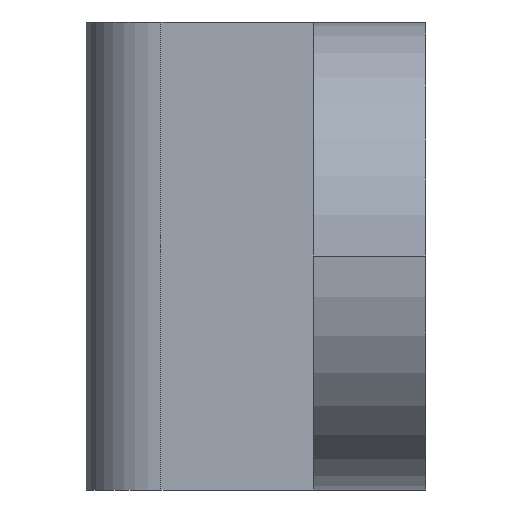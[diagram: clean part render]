
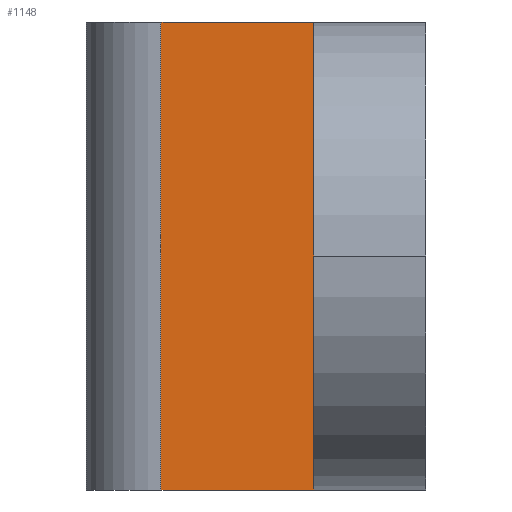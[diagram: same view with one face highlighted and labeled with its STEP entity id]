
A CAD part, left-side view. The second image highlights one B-rep face of the part: STEP entity #1148.
In plain terms, the highlighted planar face has unit normal (-1, 0, 0).
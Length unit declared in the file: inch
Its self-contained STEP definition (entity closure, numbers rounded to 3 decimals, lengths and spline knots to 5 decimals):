
#38 = FACE_OUTER_BOUND ( 'NONE', #424, .T. ) ;
#40 = LINE ( 'NONE', #1241, #775 ) ;
#147 = DIRECTION ( 'NONE',  ( 0., 0., -1. ) ) ;
#157 = VECTOR ( 'NONE', #1119, 39.37008 ) ;
#196 = AXIS2_PLACEMENT_3D ( 'NONE', #1024, #1232, #147 ) ;
#222 = VERTEX_POINT ( 'NONE', #683 ) ;
#227 = DIRECTION ( 'NONE',  ( 0., 0., -1. ) ) ;
#253 = CARTESIAN_POINT ( 'NONE',  ( -0.46853, 0.363, -0.25 ) ) ;
#271 = ORIENTED_EDGE ( 'NONE', *, *, #1141, .T. ) ;
#387 = EDGE_CURVE ( 'NONE', #222, #659, #735, .T. ) ;
#424 = EDGE_LOOP ( 'NONE', ( #1169, #922, #271, #696 ) ) ;
#492 = EDGE_CURVE ( 'NONE', #802, #942, #997, .T. ) ;
#502 = CARTESIAN_POINT ( 'NONE',  ( -0.46853, 0.12, -0.25 ) ) ;
#533 = CARTESIAN_POINT ( 'NONE',  ( -0.46853, 0.12, 0.25 ) ) ;
#547 = VECTOR ( 'NONE', #921, 39.37008 ) ;
#648 = DIRECTION ( 'NONE',  ( 0., -1., 0. ) ) ;
#659 = VERTEX_POINT ( 'NONE', #1020 ) ;
#662 = EDGE_CURVE ( 'NONE', #222, #802, #40, .T. ) ;
#670 = CARTESIAN_POINT ( 'NONE',  ( -0.46853, 0.12, 0.25 ) ) ;
#683 = CARTESIAN_POINT ( 'NONE',  ( -0.46853, 0.283, 0.25 ) ) ;
#696 = ORIENTED_EDGE ( 'NONE', *, *, #492, .F. ) ;
#735 = LINE ( 'NONE', #1229, #157 ) ;
#737 = PLANE ( 'NONE',  #196 ) ;
#775 = VECTOR ( 'NONE', #648, 39.37008 ) ;
#802 = VERTEX_POINT ( 'NONE', #670 ) ;
#921 = DIRECTION ( 'NONE',  ( 0., -1., 0. ) ) ;
#922 = ORIENTED_EDGE ( 'NONE', *, *, #387, .T. ) ;
#942 = VERTEX_POINT ( 'NONE', #502 ) ;
#991 = VECTOR ( 'NONE', #227, 39.37008 ) ;
#997 = LINE ( 'NONE', #533, #991 ) ;
#1017 = LINE ( 'NONE', #253, #547 ) ;
#1020 = CARTESIAN_POINT ( 'NONE',  ( -0.46853, 0.283, -0.25 ) ) ;
#1024 = CARTESIAN_POINT ( 'NONE',  ( -0.46853, 0.363, 0.25 ) ) ;
#1119 = DIRECTION ( 'NONE',  ( 0., 0., -1. ) ) ;
#1141 = EDGE_CURVE ( 'NONE', #659, #942, #1017, .T. ) ;
#1148 = ADVANCED_FACE ( 'NONE', ( #38 ), #737, .F. ) ;
#1169 = ORIENTED_EDGE ( 'NONE', *, *, #662, .F. ) ;
#1229 = CARTESIAN_POINT ( 'NONE',  ( -0.46853, 0.283, 0.25 ) ) ;
#1232 = DIRECTION ( 'NONE',  ( 1., 0., 0. ) ) ;
#1241 = CARTESIAN_POINT ( 'NONE',  ( -0.46853, 0.363, 0.25 ) ) ;
